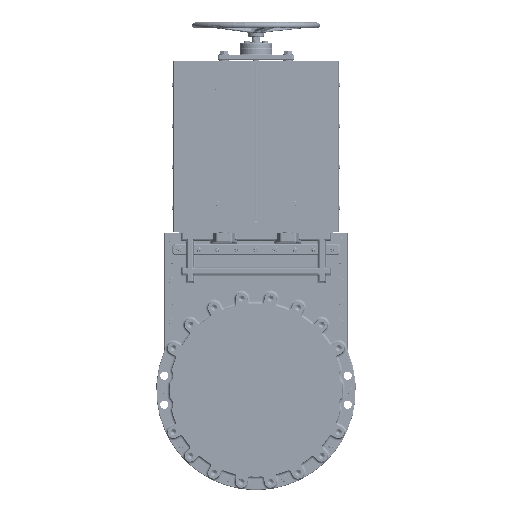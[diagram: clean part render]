
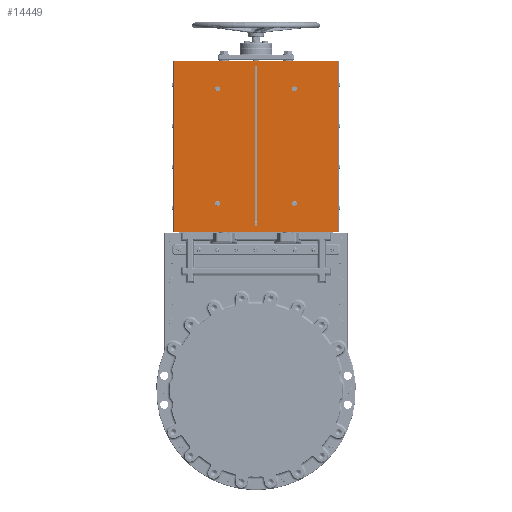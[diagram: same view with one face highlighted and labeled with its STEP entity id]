
A CAD part, top view. The second image highlights one B-rep face of the part: STEP entity #14449.
In plain terms, the highlighted planar face has unit normal (0, 0, 1).
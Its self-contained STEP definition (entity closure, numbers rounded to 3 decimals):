
#10395=PLANE('',#74604);
#14449=ADVANCED_FACE('',(#24271,#24272,#24273,#24274,#24275,#24276),#10395,
 .F.);
#18995=LINE('',#150810,#22267);
#18996=LINE('',#150813,#22268);
#18997=LINE('',#150815,#22269);
#18998=LINE('',#150817,#22270);
#18999=LINE('',#150821,#22271);
#19000=LINE('',#150825,#22272);
#22267=VECTOR('',#89343,1.);
#22268=VECTOR('',#89344,1.);
#22269=VECTOR('',#89345,1.);
#22270=VECTOR('',#89346,1.);
#22271=VECTOR('',#89349,1.);
#22272=VECTOR('',#89352,1.);
#24271=FACE_BOUND('',#29897,.T.);
#24272=FACE_BOUND('',#29898,.T.);
#24273=FACE_BOUND('',#29899,.T.);
#24274=FACE_BOUND('',#29900,.T.);
#24275=FACE_BOUND('',#29901,.T.);
#24276=FACE_BOUND('',#29902,.T.);
#29897=EDGE_LOOP('',(#47447,#47448,#47449,#47450));
#29898=EDGE_LOOP('',(#47451,#47452,#47453,#47454));
#29899=EDGE_LOOP('',(#47455));
#29900=EDGE_LOOP('',(#47456));
#29901=EDGE_LOOP('',(#47457));
#29902=EDGE_LOOP('',(#47458));
#47447=ORIENTED_EDGE('',*,*,#65014,.F.);
#47448=ORIENTED_EDGE('',*,*,#65015,.T.);
#47449=ORIENTED_EDGE('',*,*,#65016,.T.);
#47450=ORIENTED_EDGE('',*,*,#65017,.T.);
#47451=ORIENTED_EDGE('',*,*,#65018,.T.);
#47452=ORIENTED_EDGE('',*,*,#65019,.T.);
#47453=ORIENTED_EDGE('',*,*,#65020,.T.);
#47454=ORIENTED_EDGE('',*,*,#65021,.F.);
#47455=ORIENTED_EDGE('',*,*,#65022,.T.);
#47456=ORIENTED_EDGE('',*,*,#65023,.F.);
#47457=ORIENTED_EDGE('',*,*,#65024,.F.);
#47458=ORIENTED_EDGE('',*,*,#65011,.T.);
#55839=VERTEX_POINT('',#150803);
#55842=VERTEX_POINT('',#150811);
#55843=VERTEX_POINT('',#150812);
#55844=VERTEX_POINT('',#150814);
#55845=VERTEX_POINT('',#150816);
#55846=VERTEX_POINT('',#150819);
#55847=VERTEX_POINT('',#150820);
#55848=VERTEX_POINT('',#150822);
#55849=VERTEX_POINT('',#150824);
#55850=VERTEX_POINT('',#150827);
#55851=VERTEX_POINT('',#150829);
#55852=VERTEX_POINT('',#150831);
#65011=EDGE_CURVE('',#55839,#55839,#68749,.T.);
#65014=EDGE_CURVE('',#55842,#55843,#18995,.T.);
#65015=EDGE_CURVE('',#55842,#55844,#18996,.T.);
#65016=EDGE_CURVE('',#55844,#55845,#18997,.T.);
#65017=EDGE_CURVE('',#55845,#55843,#18998,.T.);
#65018=EDGE_CURVE('',#55846,#55847,#68752,.T.);
#65019=EDGE_CURVE('',#55847,#55848,#18999,.T.);
#65020=EDGE_CURVE('',#55848,#55849,#68753,.T.);
#65021=EDGE_CURVE('',#55846,#55849,#19000,.T.);
#65022=EDGE_CURVE('',#55850,#55850,#68754,.T.);
#65023=EDGE_CURVE('',#55851,#55851,#68755,.T.);
#65024=EDGE_CURVE('',#55852,#55852,#68756,.T.);
#68749=CIRCLE('',#74594,10.);
#68752=CIRCLE('',#74599,5.);
#68753=CIRCLE('',#74600,5.);
#68754=CIRCLE('',#74601,10.);
#68755=CIRCLE('',#74602,10.);
#68756=CIRCLE('',#74603,10.);
#74594=AXIS2_PLACEMENT_3D('',#150802,#89333,#89334);
#74599=AXIS2_PLACEMENT_3D('',#150818,#89347,#89348);
#74600=AXIS2_PLACEMENT_3D('',#150823,#89350,#89351);
#74601=AXIS2_PLACEMENT_3D('',#150826,#89353,#89354);
#74602=AXIS2_PLACEMENT_3D('',#150828,#89355,#89356);
#74603=AXIS2_PLACEMENT_3D('',#150830,#89357,#89358);
#74604=AXIS2_PLACEMENT_3D('',#150832,#89359,#89360);
#89333=DIRECTION('',(0.,0.,-1.));
#89334=DIRECTION('',(-1.,0.,0.));
#89343=DIRECTION('',(1.,0.,0.));
#89344=DIRECTION('',(0.,-1.,0.));
#89345=DIRECTION('',(1.,0.,0.));
#89346=DIRECTION('',(0.,1.,0.));
#89347=DIRECTION('',(0.,0.,-1.));
#89348=DIRECTION('',(-1.,0.,0.));
#89349=DIRECTION('',(0.,-1.,0.));
#89350=DIRECTION('',(0.,0.,-1.));
#89351=DIRECTION('',(-1.,0.,0.));
#89352=DIRECTION('',(0.,-1.,0.));
#89353=DIRECTION('',(0.,0.,-1.));
#89354=DIRECTION('',(-1.,0.,0.));
#89355=DIRECTION('',(0.,0.,1.));
#89356=DIRECTION('',(1.,0.,0.));
#89357=DIRECTION('',(0.,0.,1.));
#89358=DIRECTION('',(1.,0.,0.));
#89359=DIRECTION('',(0.,0.,-1.));
#89360=DIRECTION('',(-1.,0.,0.));
#150802=CARTESIAN_POINT('',(-149.,990.281,101.792));
#150803=CARTESIAN_POINT('',(-159.,990.281,101.792));
#150810=CARTESIAN_POINT('',(-196.5,1100.281,101.792));
#150811=CARTESIAN_POINT('',(-317.5,1100.281,101.792));
#150812=CARTESIAN_POINT('',(319.5,1100.281,101.792));
#150813=CARTESIAN_POINT('',(-317.5,687.281,101.792));
#150814=CARTESIAN_POINT('',(-317.5,432.281,101.792));
#150815=CARTESIAN_POINT('',(-196.5,432.281,101.792));
#150816=CARTESIAN_POINT('',(319.5,432.281,101.792));
#150817=CARTESIAN_POINT('',(319.5,1095.281,101.792));
#150818=CARTESIAN_POINT('',(1.,1073.781,101.792));
#150819=CARTESIAN_POINT('',(-4.,1073.781,101.792));
#150820=CARTESIAN_POINT('',(6.,1073.781,101.792));
#150821=CARTESIAN_POINT('',(6.,1095.281,101.792));
#150822=CARTESIAN_POINT('',(6.,458.781,101.792));
#150823=CARTESIAN_POINT('',(1.,458.781,101.792));
#150824=CARTESIAN_POINT('',(-4.,458.781,101.792));
#150825=CARTESIAN_POINT('',(-4.,1095.281,101.792));
#150826=CARTESIAN_POINT('',(-149.,542.281,101.792));
#150827=CARTESIAN_POINT('',(-159.,542.281,101.792));
#150828=CARTESIAN_POINT('',(151.,542.281,101.792));
#150829=CARTESIAN_POINT('',(161.,542.281,101.792));
#150830=CARTESIAN_POINT('',(151.,990.281,101.792));
#150831=CARTESIAN_POINT('',(161.,990.281,101.792));
#150832=CARTESIAN_POINT('',(-196.5,1095.281,101.792));
